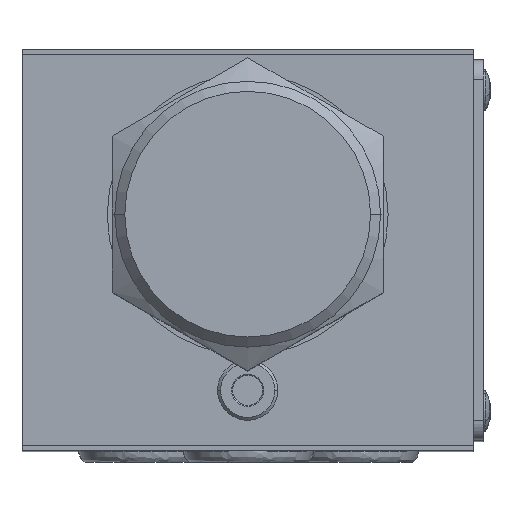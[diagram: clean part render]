
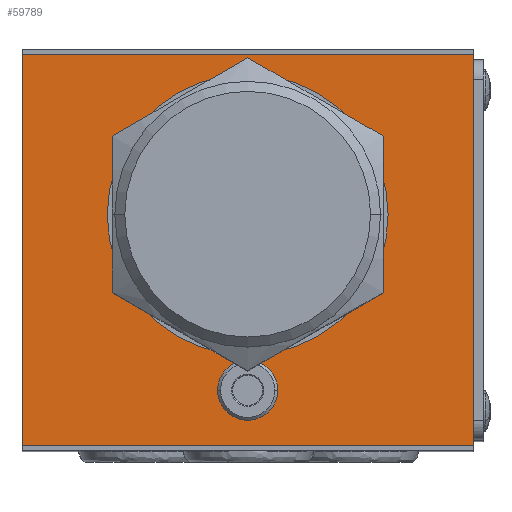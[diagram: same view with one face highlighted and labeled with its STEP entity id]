
A CAD part, top view. The second image highlights one B-rep face of the part: STEP entity #59789.
In plain terms, the highlighted planar face has unit normal (0, 0, 1).
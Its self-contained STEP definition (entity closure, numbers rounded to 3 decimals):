
#169 = AXIS2_PLACEMENT_3D ( 'NONE', #63537, #68914, #4587 ) ;
#369 = CARTESIAN_POINT ( 'NONE',  ( 0., 3.5, 46.5 ) ) ;
#1756 = EDGE_CURVE ( 'NONE', #2996, #24511, #54753, .T. ) ;
#2410 = CARTESIAN_POINT ( 'NONE',  ( 14., 3.5, 46.5 ) ) ;
#2569 = DIRECTION ( 'NONE',  ( 1., 0., 0. ) ) ;
#2605 = VECTOR ( 'NONE', #48716, 1000. ) ;
#2904 = CARTESIAN_POINT ( 'NONE',  ( 0., 3.5, 46.5 ) ) ;
#2996 = VERTEX_POINT ( 'NONE', #9831 ) ;
#3114 = CARTESIAN_POINT ( 'NONE',  ( 22.5, 20., 46.5 ) ) ;
#3185 = EDGE_LOOP ( 'NONE', ( #47957, #18990, #30828, #67866 ) ) ;
#4587 = DIRECTION ( 'NONE',  ( 1., 0., 0. ) ) ;
#6160 = EDGE_CURVE ( 'NONE', #58231, #61600, #63919, .T. ) ;
#7163 = CARTESIAN_POINT ( 'NONE',  ( 22.5, -19.5, 46.5 ) ) ;
#8073 = EDGE_LOOP ( 'NONE', ( #30105, #40332 ) ) ;
#8486 = LINE ( 'NONE', #66855, #61065 ) ;
#9507 = AXIS2_PLACEMENT_3D ( 'NONE', #369, #11091, #32548 ) ;
#9595 = DIRECTION ( 'NONE',  ( 0., 1., 0. ) ) ;
#9831 = CARTESIAN_POINT ( 'NONE',  ( -14., 3.5, 46.5 ) ) ;
#10049 = DIRECTION ( 'NONE',  ( 0., -1., 0. ) ) ;
#10502 = CARTESIAN_POINT ( 'NONE',  ( -22.5, 20., 46.5 ) ) ;
#11091 = DIRECTION ( 'NONE',  ( 0., 0., 1. ) ) ;
#11243 = VECTOR ( 'NONE', #10049, 1000. ) ;
#12072 = AXIS2_PLACEMENT_3D ( 'NONE', #2904, #63449, #47184 ) ;
#13415 = CARTESIAN_POINT ( 'NONE',  ( -22.5, 19.5, 46.5 ) ) ;
#15479 = VERTEX_POINT ( 'NONE', #13415 ) ;
#16128 = CIRCLE ( 'NONE', #9507, 14. ) ;
#17889 = VERTEX_POINT ( 'NONE', #18147 ) ;
#18147 = CARTESIAN_POINT ( 'NONE',  ( -3., -14., 46.5 ) ) ;
#18990 = ORIENTED_EDGE ( 'NONE', *, *, #6160, .T. ) ;
#21055 = EDGE_LOOP ( 'NONE', ( #66552, #34536 ) ) ;
#21837 = CIRCLE ( 'NONE', #62387, 3. ) ;
#24241 = CARTESIAN_POINT ( 'NONE',  ( 3., -14., 46.5 ) ) ;
#24511 = VERTEX_POINT ( 'NONE', #2410 ) ;
#25593 = CARTESIAN_POINT ( 'NONE',  ( 0., -14., 46.5 ) ) ;
#30105 = ORIENTED_EDGE ( 'NONE', *, *, #35955, .F. ) ;
#30828 = ORIENTED_EDGE ( 'NONE', *, *, #39986, .F. ) ;
#32087 = FACE_BOUND ( 'NONE', #21055, .T. ) ;
#32360 = CARTESIAN_POINT ( 'NONE',  ( -22.5, 19.5, 46.5 ) ) ;
#32548 = DIRECTION ( 'NONE',  ( 1., 0., 0. ) ) ;
#33559 = EDGE_CURVE ( 'NONE', #53844, #17889, #38345, .T. ) ;
#34536 = ORIENTED_EDGE ( 'NONE', *, *, #39699, .F. ) ;
#35648 = VERTEX_POINT ( 'NONE', #50612 ) ;
#35955 = EDGE_CURVE ( 'NONE', #24511, #2996, #16128, .T. ) ;
#38345 = CIRCLE ( 'NONE', #52380, 3. ) ;
#39699 = EDGE_CURVE ( 'NONE', #17889, #53844, #21837, .T. ) ;
#39986 = EDGE_CURVE ( 'NONE', #15479, #61600, #55245, .T. ) ;
#40332 = ORIENTED_EDGE ( 'NONE', *, *, #1756, .F. ) ;
#42397 = PLANE ( 'NONE',  #169 ) ;
#45932 = DIRECTION ( 'NONE',  ( -1., 0., 0. ) ) ;
#46580 = EDGE_CURVE ( 'NONE', #15479, #35648, #62139, .T. ) ;
#46621 = DIRECTION ( 'NONE',  ( 0., 0., 1. ) ) ;
#47184 = DIRECTION ( 'NONE',  ( 1., 0., 0. ) ) ;
#47957 = ORIENTED_EDGE ( 'NONE', *, *, #55599, .F. ) ;
#48716 = DIRECTION ( 'NONE',  ( 1., 0., 0. ) ) ;
#50612 = CARTESIAN_POINT ( 'NONE',  ( -22.5, -19.5, 46.5 ) ) ;
#52165 = FACE_BOUND ( 'NONE', #8073, .T. ) ;
#52380 = AXIS2_PLACEMENT_3D ( 'NONE', #25593, #46621, #62868 ) ;
#53844 = VERTEX_POINT ( 'NONE', #24241 ) ;
#54753 = CIRCLE ( 'NONE', #12072, 14. ) ;
#55245 = LINE ( 'NONE', #32360, #2605 ) ;
#55599 = EDGE_CURVE ( 'NONE', #58231, #35648, #8486, .T. ) ;
#55784 = CARTESIAN_POINT ( 'NONE',  ( 0., -14., 46.5 ) ) ;
#56417 = VECTOR ( 'NONE', #9595, 1000. ) ;
#58231 = VERTEX_POINT ( 'NONE', #7163 ) ;
#59789 = ADVANCED_FACE ( 'NONE', ( #32087, #52165, #61251 ), #42397, .T. ) ;
#60538 = CARTESIAN_POINT ( 'NONE',  ( 22.5, 19.5, 46.5 ) ) ;
#61065 = VECTOR ( 'NONE', #45932, 1000. ) ;
#61251 = FACE_OUTER_BOUND ( 'NONE', #3185, .T. ) ;
#61600 = VERTEX_POINT ( 'NONE', #60538 ) ;
#62139 = LINE ( 'NONE', #10502, #11243 ) ;
#62387 = AXIS2_PLACEMENT_3D ( 'NONE', #55784, #66654, #2569 ) ;
#62868 = DIRECTION ( 'NONE',  ( 1., 0., 0. ) ) ;
#63449 = DIRECTION ( 'NONE',  ( 0., 0., 1. ) ) ;
#63537 = CARTESIAN_POINT ( 'NONE',  ( -22.5, -20., 46.5 ) ) ;
#63919 = LINE ( 'NONE', #3114, #56417 ) ;
#66552 = ORIENTED_EDGE ( 'NONE', *, *, #33559, .F. ) ;
#66654 = DIRECTION ( 'NONE',  ( 0., 0., 1. ) ) ;
#66855 = CARTESIAN_POINT ( 'NONE',  ( 22.5, -19.5, 46.5 ) ) ;
#67866 = ORIENTED_EDGE ( 'NONE', *, *, #46580, .T. ) ;
#68914 = DIRECTION ( 'NONE',  ( 0., 0., 1. ) ) ;
